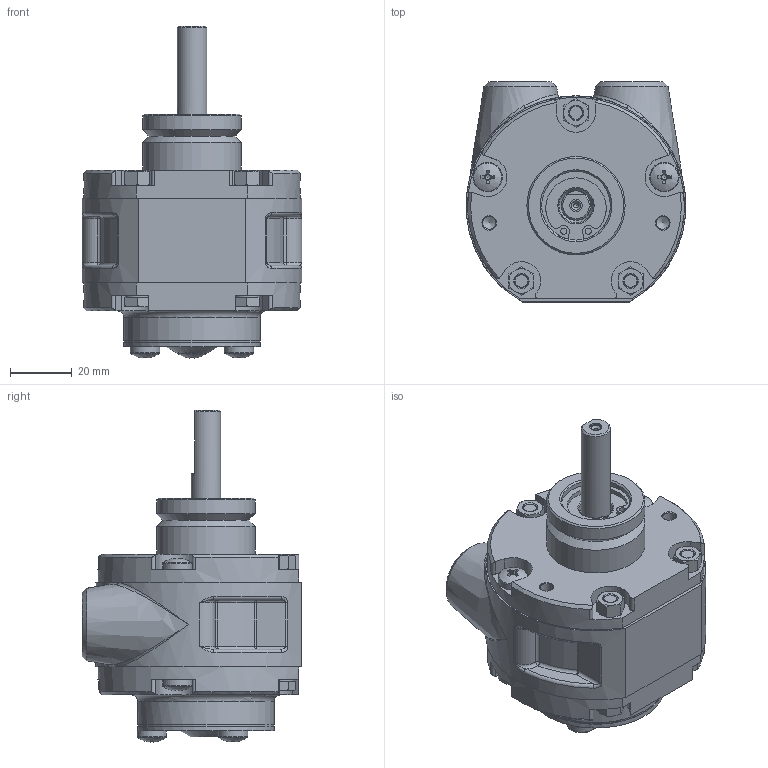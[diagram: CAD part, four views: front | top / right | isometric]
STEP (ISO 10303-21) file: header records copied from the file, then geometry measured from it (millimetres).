
FILE_DESCRIPTION (( 'STEP AP214' ), '1' );
FILE_NAME ('VA1 Defeature.STEP', '2022-06-14T09:35:36', ( '' ), ( '' ), 'SwSTEP 2.0', 'SolidWorks 2020', '' );
FILE_SCHEMA (( 'AUTOMOTIVE_DESIGN' ));
Length unit declared in the file: millimetre
Products named in the file (1): VA1 Defeature
Bounding box: 71 x 71 x 107.16 mm (x, y, z)
Volume: 205028.5 mm3; surface area: 27728.5 mm2
Topology: 1 solids, 1 shells, 532 faces, 1293 edges, 784 vertices
Faces by surface type: plane 251, cone 125, cylinder 93, bspline 22, torus 22, sphere 19
Full cylindrical faces by diameter (mm): 1.5 x1, 2 x2, 4 x1, 4.2 x2, 5 x1, 8 x3, 9.5 x7, 9.517 x1, 11.12 x1, 11.445 x2, 22.2 x1, 31.75 x2, 43.8 x1, 44 x2
Entity records: 19820 total; most frequent: CARTESIAN_POINT 6109, DIRECTION 2442, ORIENTED_EDGE 2362, EDGE_CURVE 1181, AXIS2_PLACEMENT_3D 1025, VERTEX_POINT 749, EDGE_LOOP 632, FACE_OUTER_BOUND 569
